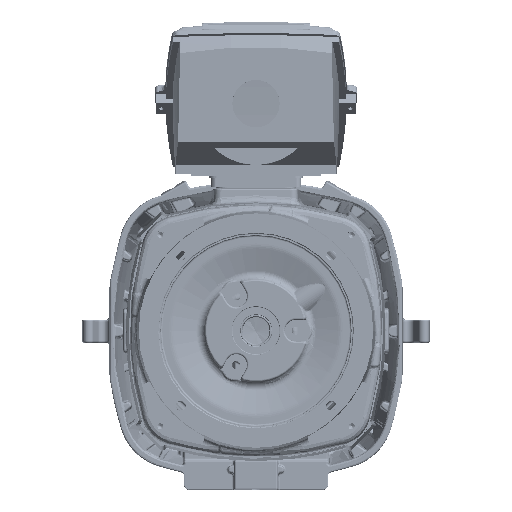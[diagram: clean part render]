
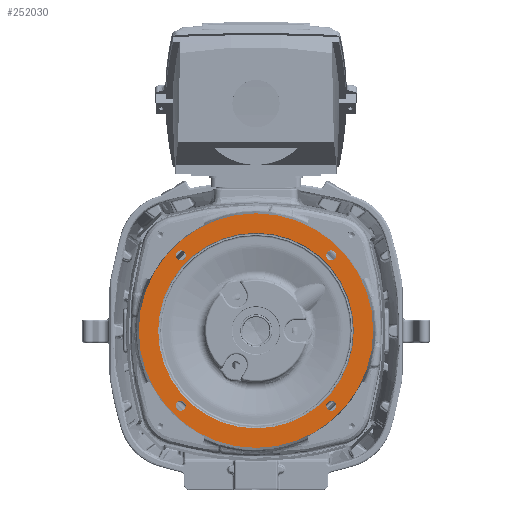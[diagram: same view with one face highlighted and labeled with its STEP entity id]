
A CAD part, top view. The second image highlights one B-rep face of the part: STEP entity #252030.
In plain terms, the highlighted planar face has unit normal (0, 0, 1) as drawn and (0, 0, -1) by its records, which use the part's own axes.
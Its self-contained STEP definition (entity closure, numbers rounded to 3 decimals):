
#232818=CARTESIAN_POINT('',(0.,0.,-5.09));
#232819=DIRECTION('',(0.,0.,-1.));
#232820=DIRECTION('',(0.,-1.,0.));
#232821=AXIS2_PLACEMENT_3D('',#232818,#232819,#232820);
#232823=CARTESIAN_POINT('',(0.,0.,-5.09));
#232824=DIRECTION('',(0.,0.,-1.));
#232825=DIRECTION('',(0.,1.,0.));
#232826=AXIS2_PLACEMENT_3D('',#232823,#232824,#232825);
#232828=CARTESIAN_POINT('',(-5.215,5.215,-5.09));
#232829=DIRECTION('',(0.,0.,-1.));
#232830=DIRECTION('',(0.,1.,0.));
#232831=AXIS2_PLACEMENT_3D('',#232828,#232829,#232830);
#232833=CARTESIAN_POINT('',(-5.215,5.215,-5.09));
#232834=DIRECTION('',(0.,0.,-1.));
#232835=DIRECTION('',(0.,-1.,0.));
#232836=AXIS2_PLACEMENT_3D('',#232833,#232834,#232835);
#232838=CARTESIAN_POINT('',(5.215,5.215,-5.09));
#232839=DIRECTION('',(0.,0.,-1.));
#232840=DIRECTION('',(1.,0.,0.));
#232841=AXIS2_PLACEMENT_3D('',#232838,#232839,#232840);
#232843=CARTESIAN_POINT('',(5.215,5.215,-5.09));
#232844=DIRECTION('',(0.,0.,-1.));
#232845=DIRECTION('',(-1.,0.,0.));
#232846=AXIS2_PLACEMENT_3D('',#232843,#232844,#232845);
#232848=CARTESIAN_POINT('',(5.215,-5.215,-5.09));
#232849=DIRECTION('',(0.,0.,-1.));
#232850=DIRECTION('',(0.,-1.,0.));
#232851=AXIS2_PLACEMENT_3D('',#232848,#232849,#232850);
#232853=CARTESIAN_POINT('',(5.215,-5.215,-5.09));
#232854=DIRECTION('',(0.,0.,-1.));
#232855=DIRECTION('',(0.,1.,0.));
#232856=AXIS2_PLACEMENT_3D('',#232853,#232854,#232855);
#232858=CARTESIAN_POINT('',(-5.215,-5.215,-5.09));
#232859=DIRECTION('',(0.,0.,-1.));
#232860=DIRECTION('',(-1.,0.,0.));
#232861=AXIS2_PLACEMENT_3D('',#232858,#232859,#232860);
#232863=CARTESIAN_POINT('',(-5.215,-5.215,-5.09));
#232864=DIRECTION('',(0.,0.,-1.));
#232865=DIRECTION('',(1.,0.,0.));
#232866=AXIS2_PLACEMENT_3D('',#232863,#232864,#232865);
#232876=CARTESIAN_POINT('',(0.,0.,-5.09));
#232877=DIRECTION('',(0.,0.,-1.));
#232878=DIRECTION('',(0.,1.,0.));
#232879=AXIS2_PLACEMENT_3D('',#232876,#232877,#232878);
#232881=CARTESIAN_POINT('',(0.,0.,-5.09));
#232882=DIRECTION('',(0.,0.,1.));
#232883=DIRECTION('',(0.,1.,0.));
#232884=AXIS2_PLACEMENT_3D('',#232881,#232882,#232883);
#249554=CARTESIAN_POINT('',(-5.215,5.559,-5.09));
#249555=CARTESIAN_POINT('',(-5.215,4.871,-5.09));
#249556=VERTEX_POINT('',#249554);
#249557=VERTEX_POINT('',#249555);
#249566=CARTESIAN_POINT('',(5.559,5.215,-5.09));
#249567=CARTESIAN_POINT('',(4.871,5.215,-5.09));
#249568=VERTEX_POINT('',#249566);
#249569=VERTEX_POINT('',#249567);
#249574=CARTESIAN_POINT('',(5.215,-5.559,-5.09));
#249575=CARTESIAN_POINT('',(5.215,-4.871,-5.09));
#249576=VERTEX_POINT('',#249574);
#249577=VERTEX_POINT('',#249575);
#249578=CARTESIAN_POINT('',(-5.559,-5.215,-5.09));
#249579=CARTESIAN_POINT('',(-4.871,-5.215,-5.09));
#249580=VERTEX_POINT('',#249578);
#249581=VERTEX_POINT('',#249579);
#249916=CARTESIAN_POINT('',(0.,6.781,-5.09));
#249917=VERTEX_POINT('',#249916);
#249920=CARTESIAN_POINT('',(0.,-6.781,-5.09));
#249921=VERTEX_POINT('',#249920);
#250656=CARTESIAN_POINT('',(0.,-8.13,-5.09));
#250657=CARTESIAN_POINT('',(0.,8.13,-5.09));
#250658=VERTEX_POINT('',#250656);
#250659=VERTEX_POINT('',#250657);
#251990=CARTESIAN_POINT('',(0.,0.,-5.09));
#251991=DIRECTION('',(0.,0.,1.));
#251992=DIRECTION('',(0.,1.,0.));
#251993=AXIS2_PLACEMENT_3D('',#251990,#251991,#251992);
#251994=PLANE('',#251993);
#251996=ORIENTED_EDGE('',*,*,#251995,.F.);
#251997=ORIENTED_EDGE('',*,*,#251931,.F.);
#251998=EDGE_LOOP('',(#251996,#251997));
#251999=FACE_OUTER_BOUND('',#251998,.F.);
#252001=ORIENTED_EDGE('',*,*,#252000,.T.);
#252003=ORIENTED_EDGE('',*,*,#252002,.F.);
#252004=EDGE_LOOP('',(#252001,#252003));
#252005=FACE_BOUND('',#252004,.F.);
#252007=ORIENTED_EDGE('',*,*,#252006,.T.);
#252009=ORIENTED_EDGE('',*,*,#252008,.T.);
#252010=EDGE_LOOP('',(#252007,#252009));
#252011=FACE_BOUND('',#252010,.F.);
#252013=ORIENTED_EDGE('',*,*,#252012,.T.);
#252015=ORIENTED_EDGE('',*,*,#252014,.T.);
#252016=EDGE_LOOP('',(#252013,#252015));
#252017=FACE_BOUND('',#252016,.F.);
#252019=ORIENTED_EDGE('',*,*,#252018,.T.);
#252021=ORIENTED_EDGE('',*,*,#252020,.T.);
#252022=EDGE_LOOP('',(#252019,#252021));
#252023=FACE_BOUND('',#252022,.F.);
#252025=ORIENTED_EDGE('',*,*,#252024,.T.);
#252027=ORIENTED_EDGE('',*,*,#252026,.T.);
#252028=EDGE_LOOP('',(#252025,#252027));
#252029=FACE_BOUND('',#252028,.F.);
#252030=ADVANCED_FACE('',(#251999,#252005,#252011,#252017,#252023,#252029),
#251994,.F.);
#232822=CIRCLE('',#232821,8.13);
#232827=CIRCLE('',#232826,8.13);
#232832=CIRCLE('',#232831,0.344);
#232837=CIRCLE('',#232836,0.344);
#232842=CIRCLE('',#232841,0.344);
#232847=CIRCLE('',#232846,0.344);
#232852=CIRCLE('',#232851,0.344);
#232857=CIRCLE('',#232856,0.344);
#232862=CIRCLE('',#232861,0.344);
#232867=CIRCLE('',#232866,0.344);
#232880=CIRCLE('',#232879,6.781);
#232885=CIRCLE('',#232884,6.781);
#251931=EDGE_CURVE('',#250659,#250658,#232827,.T.);
#251995=EDGE_CURVE('',#250658,#250659,#232822,.T.);
#252000=EDGE_CURVE('',#249917,#249921,#232880,.T.);
#252002=EDGE_CURVE('',#249917,#249921,#232885,.T.);
#252006=EDGE_CURVE('',#249556,#249557,#232832,.T.);
#252008=EDGE_CURVE('',#249557,#249556,#232837,.T.);
#252012=EDGE_CURVE('',#249568,#249569,#232842,.T.);
#252014=EDGE_CURVE('',#249569,#249568,#232847,.T.);
#252018=EDGE_CURVE('',#249576,#249577,#232852,.T.);
#252020=EDGE_CURVE('',#249577,#249576,#232857,.T.);
#252024=EDGE_CURVE('',#249580,#249581,#232862,.T.);
#252026=EDGE_CURVE('',#249581,#249580,#232867,.T.);
